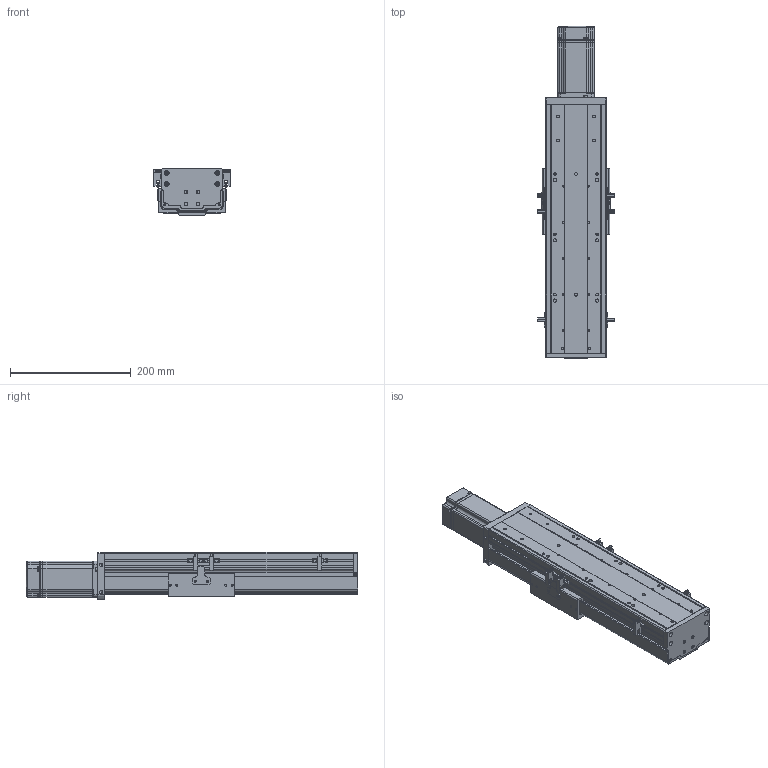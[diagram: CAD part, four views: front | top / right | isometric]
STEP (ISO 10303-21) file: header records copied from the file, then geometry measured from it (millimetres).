
FILE_DESCRIPTION (( 'STEP AP203' ), '1' );
FILE_NAME ('RY100FBS-L1610-300-MK(15双轨）.SLDASM_150.step', '2021-02-22T08:44:03', ( '盈信电脑' ), ( '东莞市道滘镇水果街19号' ), 'SwSTEP 2.0', 'SolidWorks 2012', '' );
FILE_SCHEMA (( 'CONFIG_CONTROL_DESIGN' ));
Length unit declared in the file: millimetre
Products named in the file (12): 侂狟400W侜督萇儂; RY100FB-遵嫖萇覜茼え; 覜茼ん672; RY100FBS-L1610-300-MK(15双轨）.SLDASM_150; RY100FBS-300-上盖板(15双轨）_150; RY100FBS-后盖板(15双轨）; RY100FBS-前盖板(15双轨）; 15; 滅袉蝶18-15; 滅袉蝶18-24; RY100FBS-铝滑块（16丝杆）; RY100FBS-300型材底座(15双轨）_150
Assembly tree (18 placements, depth 3):
  RY100FBS-L1610-300-MK(15双轨）.SLDASM_150
    RY100FBS-300型材底座(15双轨）_150
    滅袉蝶18-24  x2
    滅袉蝶18-15
    RY100FBS-铝滑块（16丝杆）
    RY100FBS-300-上盖板(15双轨）_150
    RY100FBS-前盖板(15双轨）
    RY100FBS-后盖板(15双轨）
    侂狟400W侜督萇儂
      15
    RY100FB-遵嫖萇覜茼え  x2
    覜茼ん672  x6
Bounding box: 127.4 x 550.5 x 78.75 mm (x, y, z)
Volume: 1562006.5 mm3; surface area: 493962.8 mm2
Topology: 17 solids, 17 shells, 1675 faces, 4705 edges, 3080 vertices
Faces by surface type: plane 853, cylinder 690, cone 114, bspline 18
Entity records: 42866 total; most frequent: CARTESIAN_POINT 8973, DIRECTION 6880, ORIENTED_EDGE 6754, EDGE_CURVE 3377, AXIS2_PLACEMENT_3D 2457, VERTEX_POINT 2228, LINE 1966, VECTOR 1966
